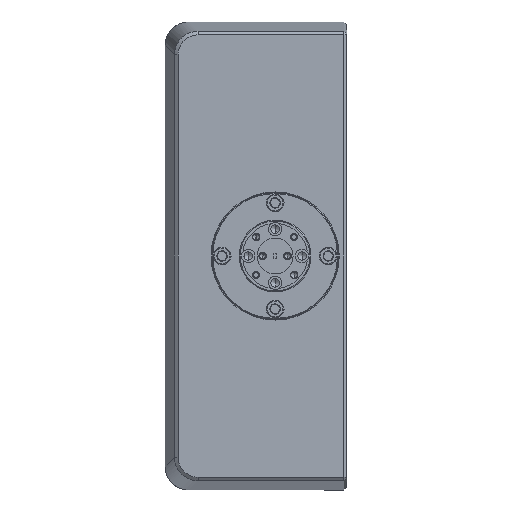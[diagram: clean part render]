
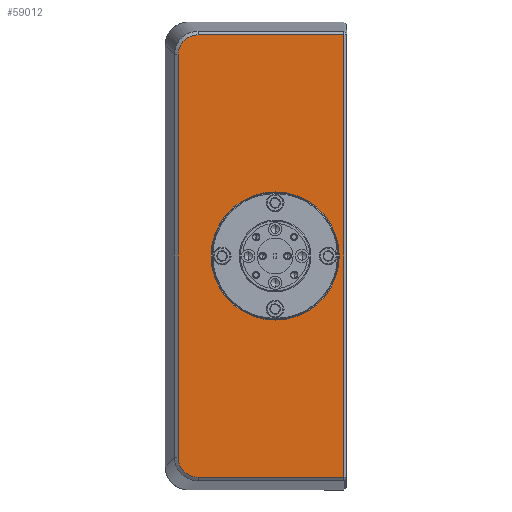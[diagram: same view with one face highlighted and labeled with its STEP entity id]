
A CAD part, left-side view. The second image highlights one B-rep face of the part: STEP entity #59012.
In plain terms, the highlighted planar face has unit normal (-1, 0, 0).
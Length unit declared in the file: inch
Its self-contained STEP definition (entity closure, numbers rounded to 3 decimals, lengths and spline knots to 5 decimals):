
#2874 = EDGE_CURVE ( 'NONE', #24863, #40280, #47785, .T. ) ;
#3423 = CARTESIAN_POINT ( 'NONE',  ( -3.68787, 0.56253, 1.82911 ) ) ;
#3569 = DIRECTION ( 'NONE',  ( 0., 0., 1. ) ) ;
#4120 = EDGE_CURVE ( 'NONE', #91661, #49992, #99119, .T. ) ;
#4276 = DIRECTION ( 'NONE',  ( 0., -1., 0. ) ) ;
#5998 = CARTESIAN_POINT ( 'NONE',  ( -3.68787, 1.22367, 4.136 ) ) ;
#7223 = CARTESIAN_POINT ( 'NONE',  ( -3.68787, 1.35137, 4.03797 ) ) ;
#8450 = VERTEX_POINT ( 'NONE', #83504 ) ;
#8719 = VECTOR ( 'NONE', #119200, 39.37008 ) ;
#9198 = ORIENTED_EDGE ( 'NONE', *, *, #105466, .T. ) ;
#9965 = VECTOR ( 'NONE', #105882, 39.37008 ) ;
#11561 = DIRECTION ( 'NONE',  ( -1., 0., 0. ) ) ;
#11956 = ORIENTED_EDGE ( 'NONE', *, *, #4120, .T. ) ;
#12503 = CIRCLE ( 'NONE', #120077, 0.67 ) ;
#14915 = CARTESIAN_POINT ( 'NONE',  ( -3.68787, -0.35747, -0.48321 ) ) ;
#16187 = EDGE_CURVE ( 'NONE', #105598, #121117, #67930, .T. ) ;
#16939 = CARTESIAN_POINT ( 'NONE',  ( -3.68787, 1.37761, 3.93251 ) ) ;
#17014 = CARTESIAN_POINT ( 'NONE',  ( -3.68787, 1.33589, -0.40299 ) ) ;
#21774 = DIRECTION ( 'NONE',  ( 0., 0., -1. ) ) ;
#23746 = CARTESIAN_POINT ( 'NONE',  ( -3.68787, 1.37218, 3.9875 ) ) ;
#23799 = CARTESIAN_POINT ( 'NONE',  ( -3.68787, 0.56253, -0.48321 ) ) ;
#24863 = VERTEX_POINT ( 'NONE', #14915 ) ;
#26518 = EDGE_CURVE ( 'NONE', #8450, #108448, #12503, .T. ) ;
#28927 = CARTESIAN_POINT ( 'NONE',  ( -3.68787, 1.16869, 4.14143 ) ) ;
#29881 = CARTESIAN_POINT ( 'NONE',  ( -3.68787, 0.36253, 1.15911 ) ) ;
#32837 = DIRECTION ( 'NONE',  ( 1., 0., 0. ) ) ;
#33592 = CARTESIAN_POINT ( 'NONE',  ( -3.68787, 1.16869, 4.14143 ) ) ;
#36070 = CARTESIAN_POINT ( 'NONE',  ( -3.68787, 1.35138, -0.37975 ) ) ;
#37362 = CARTESIAN_POINT ( 'NONE',  ( -3.68787, 1.37761, -0.27429 ) ) ;
#38372 = EDGE_CURVE ( 'NONE', #121117, #24863, #79044, .T. ) ;
#39889 = VECTOR ( 'NONE', #107949, 39.37008 ) ;
#40280 = VERTEX_POINT ( 'NONE', #104465 ) ;
#42349 = ORIENTED_EDGE ( 'NONE', *, *, #38372, .T. ) ;
#44517 = LINE ( 'NONE', #99066, #8719 ) ;
#46026 = EDGE_CURVE ( 'NONE', #108448, #8450, #81819, .T. ) ;
#47785 = LINE ( 'NONE', #68712, #9965 ) ;
#49992 = VERTEX_POINT ( 'NONE', #56479 ) ;
#50038 = FACE_BOUND ( 'NONE', #83264, .T. ) ;
#50803 = CARTESIAN_POINT ( 'NONE',  ( -3.68787, 0.36253, 1.82911 ) ) ;
#54471 = CARTESIAN_POINT ( 'NONE',  ( -3.68787, 1.29739, -0.44149 ) ) ;
#56479 = CARTESIAN_POINT ( 'NONE',  ( -3.68787, 1.37761, 3.93251 ) ) ;
#59012 = ADVANCED_FACE ( 'NONE', ( #107483, #50038 ), #70340, .F. ) ;
#66118 = ORIENTED_EDGE ( 'NONE', *, *, #115553, .T. ) ;
#66277 = CARTESIAN_POINT ( 'NONE',  ( -3.68787, 1.16869, -0.48321 ) ) ;
#67549 = ORIENTED_EDGE ( 'NONE', *, *, #16187, .T. ) ;
#67930 = B_SPLINE_CURVE_WITH_KNOTS ( 'NONE', 3,
 ( #102775, #100975, #112543, #36070, #17014, #54471, #91796, #73535, #110726, #67988 ),
 .UNSPECIFIED., .F., .F.,
 ( 4, 2, 2, 2, 4 ),
 ( 0., 0.25, 0.5, 0.75, 1. ),
 .UNSPECIFIED. ) ;
#67988 = CARTESIAN_POINT ( 'NONE',  ( -3.68787, 1.16869, -0.48321 ) ) ;
#68712 = CARTESIAN_POINT ( 'NONE',  ( -3.68787, -0.35747, 1.82911 ) ) ;
#70340 = PLANE ( 'NONE',  #91033 ) ;
#70494 = CARTESIAN_POINT ( 'NONE',  ( -3.68787, 1.33589, 4.06121 ) ) ;
#72464 = EDGE_LOOP ( 'NONE', ( #67549, #42349, #89335, #66118, #11956, #9198 ) ) ;
#72887 = CARTESIAN_POINT ( 'NONE',  ( -3.68787, 1.19617, 4.14144 ) ) ;
#73535 = CARTESIAN_POINT ( 'NONE',  ( -3.68787, 1.22368, -0.47778 ) ) ;
#77132 = ORIENTED_EDGE ( 'NONE', *, *, #46026, .F. ) ;
#79044 = LINE ( 'NONE', #23799, #94827 ) ;
#81819 = CIRCLE ( 'NONE', #113035, 0.67 ) ;
#83264 = EDGE_LOOP ( 'NONE', ( #110836, #77132 ) ) ;
#83504 = CARTESIAN_POINT ( 'NONE',  ( -3.68787, 0.36253, 2.49911 ) ) ;
#89335 = ORIENTED_EDGE ( 'NONE', *, *, #2874, .T. ) ;
#91033 = AXIS2_PLACEMENT_3D ( 'NONE', #3423, #32837, #21774 ) ;
#91216 = DIRECTION ( 'NONE',  ( 0., 0., 1. ) ) ;
#91661 = VERTEX_POINT ( 'NONE', #28927 ) ;
#91796 = CARTESIAN_POINT ( 'NONE',  ( -3.68787, 1.27415, -0.45698 ) ) ;
#94827 = VECTOR ( 'NONE', #4276, 39.37008 ) ;
#99066 = CARTESIAN_POINT ( 'NONE',  ( -3.68787, 0.56253, 4.14143 ) ) ;
#99119 = B_SPLINE_CURVE_WITH_KNOTS ( 'NONE', 3,
 ( #33592, #72887, #5998, #118674, #108848, #70494, #7223, #23746, #110045, #16939 ),
 .UNSPECIFIED., .F., .F.,
 ( 4, 2, 2, 2, 4 ),
 ( 0., 0.25, 0.5, 0.75, 1. ),
 .UNSPECIFIED. ) ;
#100975 = CARTESIAN_POINT ( 'NONE',  ( -3.68787, 1.37761, -0.30178 ) ) ;
#102775 = CARTESIAN_POINT ( 'NONE',  ( -3.68787, 1.37761, -0.27429 ) ) ;
#102803 = CARTESIAN_POINT ( 'NONE',  ( -3.68787, 0.36253, 1.82911 ) ) ;
#104465 = CARTESIAN_POINT ( 'NONE',  ( -3.68787, -0.35747, 4.14143 ) ) ;
#105466 = EDGE_CURVE ( 'NONE', #49992, #105598, #106776, .T. ) ;
#105598 = VERTEX_POINT ( 'NONE', #37362 ) ;
#105882 = DIRECTION ( 'NONE',  ( 0., 0., 1. ) ) ;
#106776 = LINE ( 'NONE', #119997, #39889 ) ;
#107483 = FACE_OUTER_BOUND ( 'NONE', #72464, .T. ) ;
#107949 = DIRECTION ( 'NONE',  ( 0., 0., -1. ) ) ;
#108448 = VERTEX_POINT ( 'NONE', #29881 ) ;
#108848 = CARTESIAN_POINT ( 'NONE',  ( -3.68787, 1.29738, 4.09971 ) ) ;
#110045 = CARTESIAN_POINT ( 'NONE',  ( -3.68787, 1.37761, 3.96006 ) ) ;
#110726 = CARTESIAN_POINT ( 'NONE',  ( -3.68787, 1.19623, -0.48321 ) ) ;
#110750 = DIRECTION ( 'NONE',  ( -1., 0., 0. ) ) ;
#110836 = ORIENTED_EDGE ( 'NONE', *, *, #26518, .F. ) ;
#112543 = CARTESIAN_POINT ( 'NONE',  ( -3.68787, 1.37217, -0.32928 ) ) ;
#113035 = AXIS2_PLACEMENT_3D ( 'NONE', #102803, #110750, #91216 ) ;
#115553 = EDGE_CURVE ( 'NONE', #40280, #91661, #44517, .T. ) ;
#118674 = CARTESIAN_POINT ( 'NONE',  ( -3.68787, 1.27415, 4.1152 ) ) ;
#119200 = DIRECTION ( 'NONE',  ( 0., 1., 0. ) ) ;
#119997 = CARTESIAN_POINT ( 'NONE',  ( -3.68787, 1.37761, 1.82911 ) ) ;
#120077 = AXIS2_PLACEMENT_3D ( 'NONE', #50803, #11561, #3569 ) ;
#121117 = VERTEX_POINT ( 'NONE', #66277 ) ;
